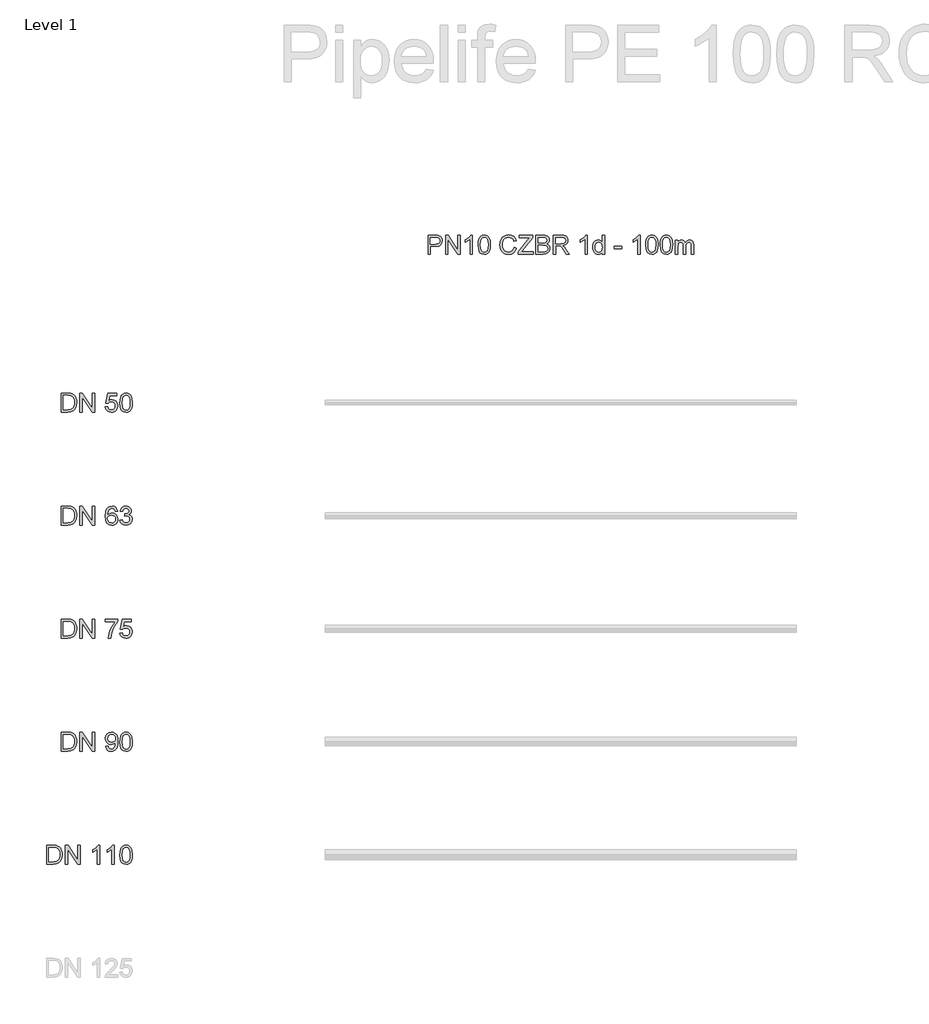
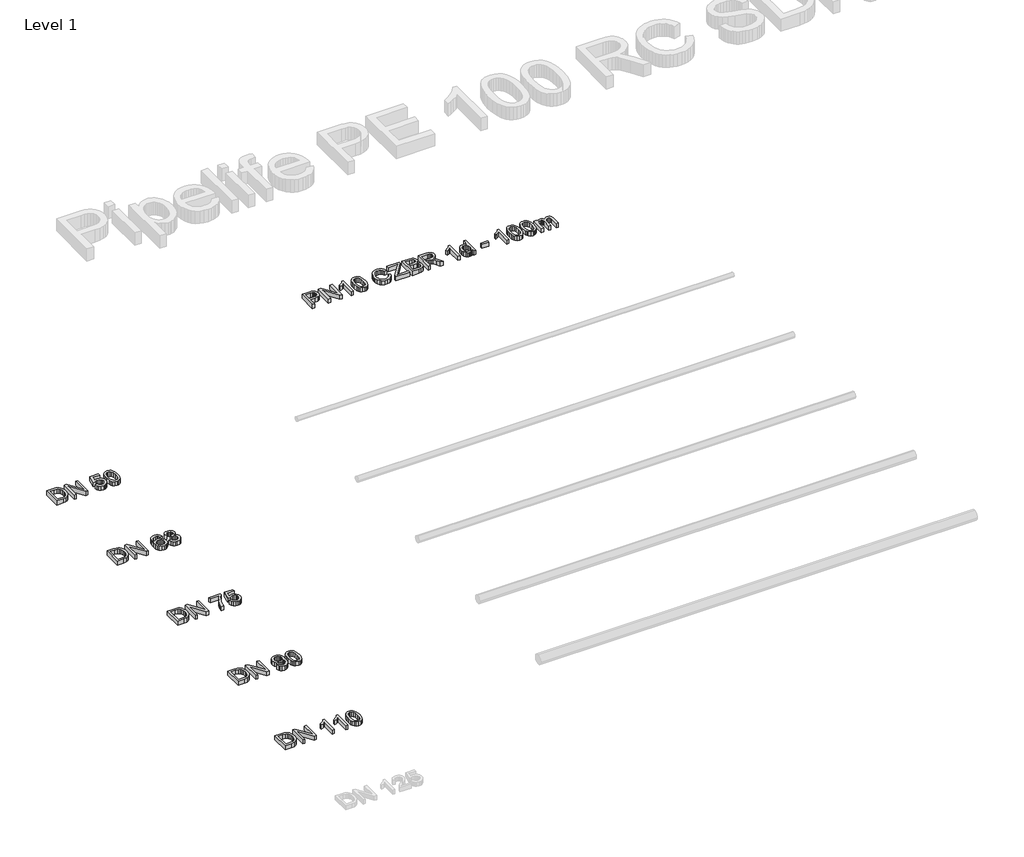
# One storey, part 3 of 13: 6 proxies.
"""IFC4 building model written with IfcOpenShell, lengths in millimetres."""

from ifc_helpers import new_model, si_unit, origin, origin_with_axes, place, context, project, spatial, polyline, outline, extrude, element, save

model = new_model("IFC4")

# Units and contexts
model_context = context("Model", 3, world=origin())
ifc_project = project(units=[si_unit("LENGTHUNIT", "METRE", prefix="MILLI")], contexts=[model_context])

# Site, building, storey
site = spatial("IfcSite", under=ifc_project)
building = spatial("IfcBuilding", under=site)
storey = spatial("IfcBuildingStorey", under=building, Name="Level 1", Elevation=0.0)

# Proxies
placement = place(None, origin())
element("IfcBuildingElementProxy", 1, Name="200mm Arial", ObjectType="200mm Arial", at=placement, inside=storey, context=model_context, shape_type="SweptSolid", body=[
    extrude(outline(polyline([(-19337.4878779, -22513.949573), (-19337.4878779, -22313.0369527), (-19268.17891, -22313.0369527), (-19232.3226782, -22315.9309577), (-19216.3075487, -22321.5105013), (-19202.7940167, -22330.302881), (-19188.90034, -22345.606772), (-19179.0043144, -22364.6385338), (-19173.0814143, -22387.0302846), (-19171.1071142, -22412.4141423), (-19176.4536659, -22452.9547382), (-19190.187927, -22482.2136195), (-19208.5329759, -22500.436041), (-19232.5434074, -22510.5160077), (-19264.8434466, -22513.949573), (-19337.4878779, -22513.949573)]), holes=[polyline([(-19312.3738004, -22488.8354954), (-19267.9336553, -22488.8354954), (-19235.6090907, -22485.2057264), (-19216.9697363, -22474.9540815), (-19208.2448016, -22464.0831685), (-19201.6903707, -22450.0116822), (-19197.5884865, -22432.6783089), (-19196.2211917, -22412.0217348), (-19198.9005989, -22384.6513144), (-19206.9388205, -22364.4423301), (-19218.8152776, -22350.5609162), (-19233.0093913, -22342.1732067), (-19268.6203684, -22338.1510302), (-19312.3738004, -22338.1510302), (-19312.3738004, -22488.8354954)])]), origin_with_axes(), (0.0, 0.0, 1.0), 50.0),
    extrude(outline(polyline([(-19136.5752576, -22513.949573), (-19136.5752576, -22313.0369527), (-19109.6953465, -22313.0369527), (-19004.7263505, -22472.2072292), (-19004.7263505, -22313.0369527), (-18979.612273, -22313.0369527), (-18979.612273, -22513.949573), (-19006.4921841, -22513.949573), (-19111.4611801, -22354.7302454), (-19111.4611801, -22513.949573), (-19136.5752576, -22513.949573)])), origin_with_axes(), (0.0, 0.0, 1.0), 50.0),
    extrude(outline(polyline([(-18866.5989241, -22460.5821582), (-18841.4848465, -22457.4428985), (-18836.8740589, -22472.5199289), (-18828.8297059, -22483.3172655), (-18817.3885758, -22489.8103827), (-18802.5874569, -22491.9747551), (-18784.5857646, -22488.9642541), (-18771.0967581, -22479.9327511), (-18762.6722604, -22465.9225785), (-18759.8640945, -22447.9760685), (-18762.4944508, -22431.0780222), (-18770.3855196, -22418.1531014), (-18783.5986146, -22409.9493329), (-18802.1950494, -22407.2147434), (-18824.2434437, -22411.5802764), (-18838.3455868, -22422.9110419), (-18863.4596644, -22419.7717822), (-18841.4848465, -22316.1762123), (-18744.1677961, -22316.1762123), (-18744.1677961, -22341.2902899), (-18821.1777604, -22341.2902899), (-18831.9199147, -22396.619742), (-18813.979536, -22385.7304349), (-18795.1807661, -22382.1006659), (-18771.7160261, -22386.601089), (-18752.2366745, -22400.1023582), (-18739.1216814, -22420.6792244), (-18734.750017, -22446.4064386), (-18738.6863543, -22471.5205162), (-18750.4953664, -22493.0048247), (-18760.9309523, -22503.5415782), (-18773.1078464, -22511.0678307), (-18787.0260485, -22515.5835821), (-18802.6855588, -22517.0888326), (-18827.3520466, -22513.2199403), (-18847.0030765, -22501.6132634), (-18860.4736888, -22483.6177025), (-18866.5989241, -22460.5821582)])), origin_with_axes(), (0.0, 0.0, 1.0), 50.0),
    extrude(outline(polyline([(-18712.7751992, -22415.1119436), (-18710.9296578, -22382.9529258), (-18705.3930338, -22357.3054194), (-18696.2205094, -22337.7770168), (-18683.4672669, -22323.9753106), (-18667.0413358, -22315.7715422), (-18646.8507456, -22313.0369527), (-18631.3751764, -22314.6556334), (-18617.5182879, -22319.5116758), (-18605.930005, -22327.4150073), (-18597.2602527, -22338.1755557), (-18585.4880288, -22367.9004209), (-18580.9262921, -22415.1119436), (-18582.7534393, -22447.0870203), (-18588.2348811, -22472.6732131), (-18597.3522232, -22492.2200098), (-18610.0870716, -22506.0768983), (-18626.5497909, -22514.335849), (-18646.8507456, -22517.0888326), (-18672.9458418, -22512.3063667), (-18692.7624186, -22497.9589689), (-18701.5180101, -22482.8298218), (-18707.772004, -22463.9789353), (-18712.7751992, -22415.1119436)]), holes=[polyline([(-18687.6611216, -22415.0628927), (-18684.7180657, -22454.5672876), (-18675.8888978, -22477.4311536), (-18662.7432478, -22488.3388547), (-18646.8507456, -22491.9747551), (-18630.9582434, -22488.326592), (-18617.8125935, -22477.3821026), (-18608.9834256, -22454.5059739), (-18606.0403696, -22415.0628927), (-18608.8853237, -22376.4475459), (-18617.420186, -22353.4058703), (-18630.5413105, -22341.9647402), (-18647.1450512, -22338.1510302), (-18662.8658751, -22341.5110191), (-18675.4964903, -22351.5909857), (-18684.6199638, -22376.0674012), (-18687.6611216, -22415.0628927)])]), origin_with_axes(), (0.0, 0.0, 1.0), 50.0),
])
element("IfcBuildingElementProxy", 2, Name="200mm Arial", ObjectType="200mm Arial", at=placement, inside=storey, context=model_context, shape_type="SweptSolid", body=[
    extrude(outline(polyline([(-19337.4878779, -23713.949573), (-19337.4878779, -23513.0369527), (-19268.17891, -23513.0369527), (-19232.3226782, -23515.9309577), (-19216.3075487, -23521.5105013), (-19202.7940167, -23530.302881), (-19188.90034, -23545.606772), (-19179.0043144, -23564.6385338), (-19173.0814143, -23587.0302846), (-19171.1071142, -23612.4141423), (-19176.4536659, -23652.9547382), (-19190.187927, -23682.2136195), (-19208.5329759, -23700.436041), (-19232.5434074, -23710.5160077), (-19264.8434466, -23713.949573), (-19337.4878779, -23713.949573)]), holes=[polyline([(-19312.3738004, -23688.8354954), (-19267.9336553, -23688.8354954), (-19235.6090907, -23685.2057264), (-19216.9697363, -23674.9540815), (-19208.2448016, -23664.0831685), (-19201.6903707, -23650.0116822), (-19197.5884865, -23632.6783089), (-19196.2211917, -23612.0217348), (-19198.9005989, -23584.6513144), (-19206.9388205, -23564.4423301), (-19218.8152776, -23550.5609162), (-19233.0093913, -23542.1732067), (-19268.6203684, -23538.1510302), (-19312.3738004, -23538.1510302), (-19312.3738004, -23688.8354954)])]), origin_with_axes(), (0.0, 0.0, 1.0), 50.0),
    extrude(outline(polyline([(-19136.5752576, -23713.949573), (-19136.5752576, -23513.0369527), (-19109.6953465, -23513.0369527), (-19004.7263505, -23672.2072292), (-19004.7263505, -23513.0369527), (-18979.612273, -23513.0369527), (-18979.612273, -23713.949573), (-19006.4921841, -23713.949573), (-19111.4611801, -23554.7302454), (-19111.4611801, -23713.949573), (-19136.5752576, -23713.949573)])), origin_with_axes(), (0.0, 0.0, 1.0), 50.0),
    extrude(outline(polyline([(-18737.8892767, -23566.4043674), (-18763.0033542, -23569.5436271), (-18772.5192352, -23548.5988789), (-18783.9113143, -23540.7629924), (-18797.6823636, -23538.1510302), (-18820.3438945, -23544.2333458), (-18829.7800677, -23553.8411973), (-18837.4871955, -23567.066555), (-18842.6927257, -23585.7733545), (-18844.6241062, -23611.8255311), (-18834.5502709, -23600.0717013), (-18822.4776101, -23591.7882251), (-18809.0805741, -23586.8770005), (-18795.0336133, -23585.2399256), (-18771.8325221, -23589.7158232), (-18752.3593018, -23603.143516), (-18739.1523382, -23623.6590686), (-18734.750017, -23649.3985455), (-18736.8224189, -23667.3818437), (-18743.0396246, -23684.0530295), (-18752.8865994, -23698.1919608), (-18765.8483083, -23708.5784958), (-18781.3361403, -23714.9612484), (-18798.7614842, -23717.0888326), (-18827.2539447, -23711.4479754), (-18849.9461324, -23694.5254036), (-18858.6051549, -23681.4165418), (-18864.7901709, -23664.6533856), (-18869.7381838, -23620.1641897), (-18864.2444793, -23570.144501), (-18857.3773487, -23551.0667539), (-18847.7633659, -23535.9437382), (-18837.3431084, -23525.9220195), (-18825.2612505, -23518.763649), (-18796.1127338, -23513.0369527), (-18774.0766023, -23516.5808825), (-18756.4305292, -23527.2126722), (-18744.0696942, -23544.0984558), (-18737.8892767, -23566.4043674)]), holes=[polyline([(-18844.6241062, -23649.0061381), (-18838.8115707, -23670.7602267), (-18823.3605269, -23686.554627), (-18800.7235215, -23691.9747551), (-18784.1504376, -23689.1665892), (-18771.1212836, -23680.7420915), (-18762.6783918, -23667.4983397), (-18759.8640945, -23650.2324114), (-18762.6416036, -23633.6593275), (-18770.9741308, -23621.022581), (-18784.224014, -23613.0211476), (-18801.7535911, -23610.3540031), (-18818.3021495, -23613.0211476), (-18832.1406439, -23621.022581), (-18841.5032406, -23633.3527592), (-18844.6241062, -23649.0061381)])]), origin_with_axes(), (0.0, 0.0, 1.0), 50.0),
    extrude(outline(polyline([(-18712.7751992, -23660.5821582), (-18687.6611216, -23657.4428985), (-18682.0386585, -23673.2250361), (-18673.8042331, -23683.8813512), (-18662.5531754, -23689.9514041), (-18647.8808152, -23691.9747551), (-18630.6639378, -23689.1911147), (-18617.3711351, -23680.8401934), (-18608.873061, -23668.3812565), (-18606.0403696, -23653.2735692), (-18608.8485355, -23638.9323028), (-18617.2730332, -23627.3011004), (-18630.0262757, -23619.5939726), (-18645.820676, -23617.02493), (-18663.4299609, -23619.7717822), (-18660.6340577, -23594.6577047), (-18656.6118812, -23594.9520102), (-18641.5655076, -23593.1493885), (-18628.1132893, -23587.7415231), (-18618.6219339, -23578.5935242), (-18615.4581487, -23565.5705016), (-18617.7512798, -23554.7241141), (-18624.6306731, -23545.925603), (-18635.1275727, -23540.0946734), (-18648.2732227, -23538.1510302), (-18661.4433981, -23540.1130675), (-18672.2100778, -23545.9991794), (-18680.0704898, -23555.809366), (-18684.5218619, -23569.5436271), (-18709.6359395, -23566.4043674), (-18702.2415114, -23543.8532011), (-18689.0835987, -23527.0164685), (-18671.0819064, -23516.5318316), (-18649.1561395, -23513.0369527), (-18633.3678705, -23514.7598667), (-18618.8671885, -23519.9286087), (-18606.6412435, -23528.0833263), (-18597.6771856, -23538.7641669), (-18592.1773498, -23551.0698196), (-18590.3440712, -23564.0989736), (-18592.0853793, -23576.2390794), (-18597.3093036, -23587.2510138), (-18605.9422678, -23596.6320047), (-18617.9106953, -23603.87928), (-18602.1898714, -23610.2313758), (-18590.5402749, -23621.0471064), (-18583.3297878, -23635.7378608), (-18580.9262921, -23653.7150276), (-18585.7332835, -23678.191443), (-18600.1542577, -23698.645682), (-18621.9206091, -23712.478045), (-18648.763732, -23717.0888326), (-18673.0439437, -23713.1524953), (-18692.8114695, -23701.3434833), (-18706.5579934, -23683.2804773), (-18712.7751992, -23660.5821582)])), origin_with_axes(), (0.0, 0.0, 1.0), 50.0),
])
element("IfcBuildingElementProxy", 3, Name="200mm Arial", ObjectType="200mm Arial", at=placement, inside=storey, context=model_context, shape_type="SweptSolid", body=[
    extrude(outline(polyline([(-19337.4878779, -24913.949573), (-19337.4878779, -24713.0369527), (-19268.17891, -24713.0369527), (-19232.3226782, -24715.9309577), (-19216.3075487, -24721.5105013), (-19202.7940167, -24730.302881), (-19188.90034, -24745.606772), (-19179.0043144, -24764.6385338), (-19173.0814143, -24787.0302846), (-19171.1071142, -24812.4141423), (-19176.4536659, -24852.9547382), (-19190.187927, -24882.2136195), (-19208.5329759, -24900.436041), (-19232.5434074, -24910.5160077), (-19264.8434466, -24913.949573), (-19337.4878779, -24913.949573)]), holes=[polyline([(-19312.3738004, -24888.8354954), (-19267.9336553, -24888.8354954), (-19235.6090907, -24885.2057264), (-19216.9697363, -24874.9540815), (-19208.2448016, -24864.0831685), (-19201.6903707, -24850.0116822), (-19197.5884865, -24832.6783089), (-19196.2211917, -24812.0217348), (-19198.9005989, -24784.6513144), (-19206.9388205, -24764.4423301), (-19218.8152776, -24750.5609162), (-19233.0093913, -24742.1732067), (-19268.6203684, -24738.1510302), (-19312.3738004, -24738.1510302), (-19312.3738004, -24888.8354954)])]), origin_with_axes(), (0.0, 0.0, 1.0), 50.0),
    extrude(outline(polyline([(-19136.5752576, -24913.949573), (-19136.5752576, -24713.0369527), (-19109.6953465, -24713.0369527), (-19004.7263505, -24872.2072292), (-19004.7263505, -24713.0369527), (-18979.612273, -24713.0369527), (-18979.612273, -24913.949573), (-19006.4921841, -24913.949573), (-19111.4611801, -24754.7302454), (-19111.4611801, -24913.949573), (-19136.5752576, -24913.949573)])), origin_with_axes(), (0.0, 0.0, 1.0), 50.0),
    extrude(outline(polyline([(-18866.5989241, -24741.2902899), (-18866.5989241, -24716.1762123), (-18734.750017, -24716.1762123), (-18734.750017, -24736.4832985), (-18753.5426556, -24760.2668695), (-18772.1513532, -24790.5129008), (-18788.5650215, -24824.4622776), (-18800.7725724, -24859.3558849), (-18810.0922496, -24913.949573), (-18835.2063271, -24913.949573), (-18832.4901318, -24888.0629432), (-18825.2244623, -24857.2957457), (-18813.6055227, -24824.6830068), (-18797.8295164, -24793.2597531), (-18779.4108912, -24764.8531317), (-18759.8640945, -24741.2902899), (-18866.5989241, -24741.2902899)])), origin_with_axes(), (0.0, 0.0, 1.0), 50.0),
    extrude(outline(polyline([(-18712.7751992, -24860.5821582), (-18687.6611216, -24857.4428985), (-18683.0503339, -24872.5199289), (-18675.005981, -24883.3172655), (-18663.5648509, -24889.8103827), (-18648.763732, -24891.9747551), (-18630.7620397, -24888.9642541), (-18617.2730332, -24879.9327511), (-18608.8485355, -24865.9225785), (-18606.0403696, -24847.9760685), (-18608.6707259, -24831.0780222), (-18616.5617947, -24818.1531014), (-18629.7748897, -24809.9493329), (-18648.3713245, -24807.2147434), (-18670.4197188, -24811.5802764), (-18684.5218619, -24822.9110419), (-18709.6359395, -24819.7717822), (-18687.6611216, -24716.1762123), (-18590.3440712, -24716.1762123), (-18590.3440712, -24741.2902899), (-18667.3540355, -24741.2902899), (-18678.0961897, -24796.619742), (-18660.1558111, -24785.7304349), (-18641.3570412, -24782.1006659), (-18617.8923012, -24786.601089), (-18598.4129496, -24800.1023582), (-18585.2979565, -24820.6792244), (-18580.9262921, -24846.4064386), (-18584.8626294, -24871.5205162), (-18596.6716415, -24893.0048247), (-18607.1072274, -24903.5415782), (-18619.2841214, -24911.0678307), (-18633.2023236, -24915.5835821), (-18648.8618339, -24917.0888326), (-18673.5283216, -24913.2199403), (-18693.1793515, -24901.6132634), (-18706.6499639, -24883.6177025), (-18712.7751992, -24860.5821582)])), origin_with_axes(), (0.0, 0.0, 1.0), 50.0),
])
element("IfcBuildingElementProxy", 4, Name="200mm Arial", ObjectType="200mm Arial", at=placement, inside=storey, context=model_context, shape_type="SweptSolid", body=[
    extrude(outline(polyline([(-19337.4878779, -26113.949573), (-19337.4878779, -25913.0369527), (-19268.17891, -25913.0369527), (-19232.3226782, -25915.9309577), (-19216.3075487, -25921.5105013), (-19202.7940167, -25930.302881), (-19188.90034, -25945.606772), (-19179.0043144, -25964.6385338), (-19173.0814143, -25987.0302846), (-19171.1071142, -26012.4141423), (-19176.4536659, -26052.9547382), (-19190.187927, -26082.2136195), (-19208.5329759, -26100.436041), (-19232.5434074, -26110.5160077), (-19264.8434466, -26113.949573), (-19337.4878779, -26113.949573)]), holes=[polyline([(-19312.3738004, -26088.8354954), (-19267.9336553, -26088.8354954), (-19235.6090907, -26085.2057264), (-19216.9697363, -26074.9540815), (-19208.2448016, -26064.0831685), (-19201.6903707, -26050.0116822), (-19197.5884865, -26032.6783089), (-19196.2211917, -26012.0217348), (-19198.9005989, -25984.6513144), (-19206.9388205, -25964.4423301), (-19218.8152776, -25950.5609162), (-19233.0093913, -25942.1732067), (-19268.6203684, -25938.1510302), (-19312.3738004, -25938.1510302), (-19312.3738004, -26088.8354954)])]), origin_with_axes(), (0.0, 0.0, 1.0), 50.0),
    extrude(outline(polyline([(-19136.5752576, -26113.949573), (-19136.5752576, -25913.0369527), (-19109.6953465, -25913.0369527), (-19004.7263505, -26072.2072292), (-19004.7263505, -25913.0369527), (-18979.612273, -25913.0369527), (-18979.612273, -26113.949573), (-19006.4921841, -26113.949573), (-19111.4611801, -25954.7302454), (-19111.4611801, -26113.949573), (-19136.5752576, -26113.949573)])), origin_with_axes(), (0.0, 0.0, 1.0), 50.0),
    extrude(outline(polyline([(-18863.4596644, -26063.7214179), (-18838.3455868, -26060.5821582), (-18834.0536302, -26074.8375855), (-18827.0638723, -26084.5435388), (-18817.5479914, -26090.116951), (-18805.6776657, -26091.9747551), (-18785.3460541, -26087.1922892), (-18771.562742, -26074.4145212), (-18763.3467108, -26052.5868562), (-18759.7169417, -26023.4506021), (-18759.8640945, -26018.5455089), (-18768.5645037, -26029.1650358), (-18779.9504515, -26037.5772708), (-18793.2003347, -26043.0587125), (-18807.4925502, -26044.8858597), (-18830.3932044, -26040.4222249), (-18849.4556231, -26027.0313202), (-18862.3130988, -26006.3440894), (-18866.5989241, -25979.9914758), (-18862.1046324, -25952.7682081), (-18848.6217572, -25931.4310524), (-18828.3698534, -25917.6354776), (-18803.5684756, -25913.0369527), (-18784.8371506, -25915.6611776), (-18767.7858202, -25923.5338523), (-18753.5242615, -25936.2625693), (-18743.162252, -25953.4549212), (-18736.8530757, -25977.2200981), (-18734.750017, -26009.6672901), (-18736.8469444, -26044.070388), (-18743.1377265, -26070.6621249), (-18753.5671811, -26090.6442486), (-18768.0801258, -26105.2185069), (-18786.0511612, -26114.1212512), (-18806.8548881, -26117.0888326), (-18828.3269338, -26113.5878223), (-18845.4579721, -26103.0847914), (-18857.4386624, -26086.2419274), (-18863.4596644, -26063.7214179)]), holes=[polyline([(-18759.8640945, -25979.4028646), (-18762.5741586, -25962.3821909), (-18770.7043507, -25949.2855919), (-18783.3227031, -25940.9346706), (-18799.4972481, -25938.1510302), (-18816.2726671, -25941.1492685), (-18829.7126227, -25950.1439832), (-18838.5417906, -25963.9089012), (-18841.4848465, -25981.2177491), (-18838.7012061, -25996.7362379), (-18830.3502848, -26009.0541534), (-18817.241423, -26017.092375), (-18800.1839612, -26019.7717822), (-18784.1381749, -26017.092375), (-18771.2193855, -26009.0541534), (-18762.7029173, -25996.2825168), (-18759.8640945, -25979.4028646)])]), origin_with_axes(), (0.0, 0.0, 1.0), 50.0),
    extrude(outline(polyline([(-18712.7751992, -26015.1119436), (-18710.9296578, -25982.9529258), (-18705.3930338, -25957.3054194), (-18696.2205094, -25937.7770168), (-18683.4672669, -25923.9753106), (-18667.0413358, -25915.7715422), (-18646.8507456, -25913.0369527), (-18631.3751764, -25914.6556334), (-18617.5182879, -25919.5116758), (-18605.930005, -25927.4150073), (-18597.2602527, -25938.1755557), (-18585.4880288, -25967.9004209), (-18580.9262921, -26015.1119436), (-18582.7534393, -26047.0870203), (-18588.2348811, -26072.6732131), (-18597.3522232, -26092.2200098), (-18610.0870716, -26106.0768983), (-18626.5497909, -26114.335849), (-18646.8507456, -26117.0888326), (-18672.9458418, -26112.3063667), (-18692.7624186, -26097.9589689), (-18701.5180101, -26082.8298218), (-18707.772004, -26063.9789353), (-18712.7751992, -26015.1119436)]), holes=[polyline([(-18687.6611216, -26015.0628927), (-18684.7180657, -26054.5672876), (-18675.8888978, -26077.4311536), (-18662.7432478, -26088.3388547), (-18646.8507456, -26091.9747551), (-18630.9582434, -26088.326592), (-18617.8125935, -26077.3821026), (-18608.9834256, -26054.5059739), (-18606.0403696, -26015.0628927), (-18608.8853237, -25976.4475459), (-18617.420186, -25953.4058703), (-18630.5413105, -25941.9647402), (-18647.1450512, -25938.1510302), (-18662.8658751, -25941.5110191), (-18675.4964903, -25951.5909857), (-18684.6199638, -25976.0674012), (-18687.6611216, -26015.0628927)])]), origin_with_axes(), (0.0, 0.0, 1.0), 50.0),
])
element("IfcBuildingElementProxy", 5, Name="200mm Arial", ObjectType="200mm Arial", at=placement, inside=storey, context=model_context, shape_type="SweptSolid", body=[
    extrude(outline(polyline([(-19491.3116028, -27313.949573), (-19491.3116028, -27113.0369527), (-19422.0026349, -27113.0369527), (-19386.1464031, -27115.9309577), (-19370.1312736, -27121.5105013), (-19356.6177416, -27130.302881), (-19342.724065, -27145.606772), (-19332.8280393, -27164.6385338), (-19326.9051392, -27187.0302846), (-19324.9308391, -27212.4141423), (-19330.2773908, -27252.9547382), (-19344.0116519, -27282.2136195), (-19362.3567008, -27300.436041), (-19386.3671323, -27310.5160077), (-19418.6671715, -27313.949573), (-19491.3116028, -27313.949573)]), holes=[polyline([(-19466.1975253, -27288.8354954), (-19421.7573803, -27288.8354954), (-19389.4328156, -27285.2057264), (-19370.7934612, -27274.9540815), (-19362.0685265, -27264.0831685), (-19355.5140957, -27250.0116822), (-19351.4122114, -27232.6783089), (-19350.0449167, -27212.0217348), (-19352.7243239, -27184.6513144), (-19360.7625455, -27164.4423301), (-19372.6390025, -27150.5609162), (-19386.8331162, -27142.1732067), (-19422.4440933, -27138.1510302), (-19466.1975253, -27138.1510302), (-19466.1975253, -27288.8354954)])]), origin_with_axes(), (0.0, 0.0, 1.0), 50.0),
    extrude(outline(polyline([(-19290.3989825, -27313.949573), (-19290.3989825, -27113.0369527), (-19263.5190714, -27113.0369527), (-19158.5500754, -27272.2072292), (-19158.5500754, -27113.0369527), (-19133.4359979, -27113.0369527), (-19133.4359979, -27313.949573), (-19160.315909, -27313.949573), (-19265.284905, -27154.7302454), (-19265.284905, -27313.949573), (-19290.3989825, -27313.949573)])), origin_with_axes(), (0.0, 0.0, 1.0), 50.0),
    extrude(outline(polyline([(-18926.2448582, -27313.949573), (-18951.3589358, -27313.949573), (-18951.3589358, -27157.3789958), (-18975.1486381, -27174.3260931), (-19001.5870908, -27187.0057592), (-19001.5870908, -27163.2651077), (-18964.7743658, -27139.769711), (-18951.3037535, -27126.1948653), (-18942.431666, -27113.0369527), (-18926.2448582, -27113.0369527), (-18926.2448582, -27313.949573)])), origin_with_axes(), (0.0, 0.0, 1.0), 50.0),
    extrude(outline(polyline([(-18772.4211333, -27313.949573), (-18797.5352108, -27313.949573), (-18797.5352108, -27157.3789958), (-18821.3249132, -27174.3260931), (-18847.7633659, -27187.0057592), (-18847.7633659, -27163.2651077), (-18810.9506409, -27139.769711), (-18797.4800285, -27126.1948653), (-18788.6079411, -27113.0369527), (-18772.4211333, -27113.0369527), (-18772.4211333, -27313.949573)])), origin_with_axes(), (0.0, 0.0, 1.0), 50.0),
    extrude(outline(polyline([(-18712.7751992, -27215.1119436), (-18710.9296578, -27182.9529258), (-18705.3930338, -27157.3054194), (-18696.2205094, -27137.7770168), (-18683.4672669, -27123.9753106), (-18667.0413358, -27115.7715422), (-18646.8507456, -27113.0369527), (-18631.3751764, -27114.6556334), (-18617.5182879, -27119.5116758), (-18605.930005, -27127.4150073), (-18597.2602527, -27138.1755557), (-18585.4880288, -27167.9004209), (-18580.9262921, -27215.1119436), (-18582.7534393, -27247.0870203), (-18588.2348811, -27272.6732131), (-18597.3522232, -27292.2200098), (-18610.0870716, -27306.0768983), (-18626.5497909, -27314.335849), (-18646.8507456, -27317.0888326), (-18672.9458418, -27312.3063667), (-18692.7624186, -27297.9589689), (-18701.5180101, -27282.8298218), (-18707.772004, -27263.9789353), (-18712.7751992, -27215.1119436)]), holes=[polyline([(-18687.6611216, -27215.0628927), (-18684.7180657, -27254.5672876), (-18675.8888978, -27277.4311536), (-18662.7432478, -27288.3388547), (-18646.8507456, -27291.9747551), (-18630.9582434, -27288.326592), (-18617.8125935, -27277.3821026), (-18608.9834256, -27254.5059739), (-18606.0403696, -27215.0628927), (-18608.8853237, -27176.4475459), (-18617.420186, -27153.4058703), (-18630.5413105, -27141.9647402), (-18647.1450512, -27138.1510302), (-18662.8658751, -27141.5110191), (-18675.4964903, -27151.5909857), (-18684.6199638, -27176.0674012), (-18687.6611216, -27215.0628927)])]), origin_with_axes(), (0.0, 0.0, 1.0), 50.0),
])
element("IfcBuildingElementProxy", 6, Name="200mm Arial", ObjectType="200mm Arial", at=placement, inside=storey, context=model_context, shape_type="SweptSolid", body=[
    extrude(outline(polyline([(-15440.6250972, -20838.0508707), (-15440.6250972, -20637.1382504), (-15366.1657813, -20637.1382504), (-15336.1466105, -20639.0512367), (-15311.7437715, -20648.4444903), (-15302.8716841, -20656.7708862), (-15295.9248457, -20667.8686597), (-15291.4366854, -20680.9591274), (-15289.9406319, -20695.2636056), (-15293.9812025, -20718.9429434), (-15306.1029143, -20738.673681), (-15315.8104004, -20746.4421225), (-15328.7705765, -20751.9910093), (-15364.4489987, -20756.4301187), (-15415.5110196, -20756.4301187), (-15415.5110196, -20838.0508707), (-15440.6250972, -20838.0508707)]), holes=[polyline([(-15415.5110196, -20731.3160411), (-15362.9774707, -20731.3160411), (-15340.7083473, -20729.0106473), (-15325.9930675, -20722.0944658), (-15317.789299, -20710.9966923), (-15315.0547095, -20696.1465224), (-15316.6672589, -20684.8648079), (-15321.5049071, -20675.3489269), (-15328.9667803, -20668.1874908), (-15338.4520044, -20663.9691105), (-15363.5660819, -20662.2523279), (-15415.5110196, -20662.2523279), (-15415.5110196, -20731.3160411)])]), origin_with_axes(), (0.0, 0.0, 1.0), 50.0),
    extrude(outline(polyline([(-15255.4087753, -20838.0508707), (-15255.4087753, -20637.1382504), (-15228.5288642, -20637.1382504), (-15123.5598682, -20796.3085269), (-15123.5598682, -20637.1382504), (-15098.4457907, -20637.1382504), (-15098.4457907, -20838.0508707), (-15125.3257018, -20838.0508707), (-15230.2946978, -20678.8315431), (-15230.2946978, -20838.0508707), (-15255.4087753, -20838.0508707)])), origin_with_axes(), (0.0, 0.0, 1.0), 50.0),
    extrude(outline(polyline([(-14969.7361433, -20838.0508707), (-14994.8502209, -20838.0508707), (-14994.8502209, -20681.4802935), (-15018.6399232, -20698.4273908), (-15045.0783759, -20711.1070569), (-15045.0783759, -20687.3664054), (-15008.265651, -20663.8710087), (-14994.7950386, -20650.2961631), (-14985.9229511, -20637.1382504), (-14969.7361433, -20637.1382504), (-14969.7361433, -20838.0508707)])), origin_with_axes(), (0.0, 0.0, 1.0), 50.0),
    extrude(outline(polyline([(-14910.0902092, -20739.2132413), (-14908.2446678, -20707.0542235), (-14902.7080438, -20681.4067171), (-14893.5355194, -20661.8783145), (-14880.7822769, -20648.0766083), (-14864.3563458, -20639.8728399), (-14844.1657556, -20637.1382504), (-14828.6901864, -20638.7569311), (-14814.8332979, -20643.6129735), (-14803.245015, -20651.516305), (-14794.5752627, -20662.2768534), (-14782.8030388, -20692.0017186), (-14778.2413021, -20739.2132413), (-14780.0684494, -20771.188318), (-14785.5498911, -20796.7745108), (-14794.6672332, -20816.3213075), (-14807.4020816, -20830.178196), (-14823.8648009, -20838.4371468), (-14844.1657556, -20841.1901304), (-14870.2608518, -20836.4076644), (-14890.0774286, -20822.0602666), (-14898.8330201, -20806.9311195), (-14905.087014, -20788.080233), (-14910.0902092, -20739.2132413)]), holes=[polyline([(-14884.9761316, -20739.1641904), (-14882.0330757, -20778.6685853), (-14873.2039078, -20801.5324513), (-14860.0582578, -20812.4401524), (-14844.1657556, -20816.0760528), (-14828.2732535, -20812.4278897), (-14815.1276035, -20801.4834003), (-14806.2984356, -20778.6072716), (-14803.3553796, -20739.1641904), (-14806.2003337, -20700.5488436), (-14814.735196, -20677.507168), (-14827.8563205, -20666.0660379), (-14844.4600612, -20662.2523279), (-14860.1808852, -20665.6123168), (-14872.8115003, -20675.6922835), (-14881.9349738, -20700.1686989), (-14884.9761316, -20739.1641904)])]), origin_with_axes(), (0.0, 0.0, 1.0), 50.0),
    extrude(outline(polyline([(-14527.1005267, -20766.6327127), (-14501.9864492, -20773.1074358), (-14513.574732, -20802.3724485), (-14531.7603653, -20823.7525238), (-14555.6481696, -20836.8307287), (-14584.3429652, -20841.1901304), (-14613.4730878, -20837.8914551), (-14636.606734, -20827.9954295), (-14654.3386461, -20811.8454099), (-14667.2635669, -20789.7847529), (-14675.1546357, -20763.8490722), (-14677.784992, -20736.0739816), (-14674.8112792, -20706.778312), (-14665.8901408, -20681.4802935), (-14651.4875607, -20660.983135), (-14632.0695227, -20646.0900456), (-14609.0401098, -20637.0217544), (-14583.8034049, -20633.9989907), (-14556.2674376, -20637.9108025), (-14533.5016734, -20649.6462382), (-14516.217351, -20668.4817963), (-14505.1257089, -20693.6939758), (-14530.2397864, -20699.6781895), (-14538.946327, -20681.3637975), (-14550.8411782, -20668.8006274), (-14566.0714928, -20661.534958), (-14584.7844236, -20659.1130682), (-14606.3545712, -20661.7986068), (-14624.0742207, -20669.8552225), (-14637.5203076, -20682.4367867), (-14646.2697677, -20698.6971709), (-14651.0706277, -20717.0790079), (-14652.6709144, -20736.0249307), (-14650.7763221, -20759.2260218), (-14645.0925453, -20779.2878533), (-14635.4049861, -20795.4440043), (-14621.4990467, -20806.9280539), (-14604.8278609, -20813.7890531), (-14586.8445628, -20816.0760528), (-14565.8814204, -20812.9613186), (-14548.413157, -20803.6171159), (-14535.2245875, -20788.1415466), (-14527.1005267, -20766.6327127)])), origin_with_axes(), (0.0, 0.0, 1.0), 50.0),
    extrude(outline(polyline([(-14483.150891, -20838.0508707), (-14483.150891, -20812.0048254), (-14380.3891871, -20686.189183), (-14360.8669158, -20662.2523279), (-14470.5938523, -20662.2523279), (-14470.5938523, -20637.1382504), (-14329.3271661, -20637.1382504), (-14329.3271661, -20662.2523279), (-14441.8009548, -20799.938296), (-14452.3959562, -20812.9367931), (-14326.1879064, -20812.9367931), (-14326.1879064, -20838.0508707), (-14483.150891, -20838.0508707)])), origin_with_axes(), (0.0, 0.0, 1.0), 50.0),
    extrude(outline(polyline([(-14297.9345692, -20838.0508707), (-14297.9345692, -20637.1382504), (-14221.2679614, -20637.1382504), (-14200.1821917, -20638.6159097), (-14183.7194724, -20643.0488877), (-14171.10112, -20650.5475491), (-14161.5484509, -20661.2222583), (-14155.5335802, -20673.7792971), (-14153.5286234, -20686.924947), (-14155.2147492, -20699.0221333), (-14160.2731266, -20710.3958183), (-14168.7405439, -20720.3470263), (-14180.6537891, -20728.1767814), (-14166.4228873, -20735.6079977), (-14155.9075936, -20746.9142377), (-14149.4144764, -20761.3474747), (-14147.250104, -20778.1596818), (-14153.1607414, -20805.1622203), (-14167.8024448, -20824.3901859), (-14189.6546353, -20834.5927799), (-14221.8565726, -20838.0508707), (-14297.9345692, -20838.0508707)]), holes=[polyline([(-14272.8204917, -20718.7590024), (-14226.9578696, -20718.7590024), (-14200.1760604, -20716.6007613), (-14184.062829, -20707.3056096), (-14178.6427009, -20690.9471235), (-14183.694947, -20674.564112), (-14198.1649721, -20664.8765528), (-14230.4404858, -20662.2523279), (-14272.8204917, -20662.2523279), (-14272.8204917, -20718.7590024)]), polyline([(-14272.8204917, -20812.9367931), (-14221.3170123, -20812.9367931), (-14202.6776579, -20811.9557745), (-14186.9077831, -20806.4865955), (-14176.4599344, -20795.3275083), (-14172.3641815, -20778.4049365), (-14177.1711729, -20758.8826653), (-14183.4680864, -20751.8254624), (-14192.7448441, -20747.2330688), (-14223.769559, -20743.8730799), (-14272.8204917, -20743.8730799), (-14272.8204917, -20812.9367931)])]), origin_with_axes(), (0.0, 0.0, 1.0), 50.0),
    extrude(outline(polyline([(-14112.7182474, -20838.0508707), (-14112.7182474, -20637.1382504), (-14026.1433512, -20637.1382504), (-14002.874815, -20638.4932824), (-13985.9461118, -20642.5583784), (-13973.5730141, -20650.0631711), (-13963.971294, -20661.7372931), (-13957.8092706, -20676.2134496), (-13955.7552628, -20692.1243459), (-13959.1581712, -20711.9163972), (-13969.3668966, -20728.3239342), (-13986.6880072, -20740.3536755), (-14011.4280714, -20747.0123396), (-13997.1542499, -20757.7544938), (-13976.7981129, -20783.6043354), (-13943.2963259, -20838.0508707), (-13972.4816308, -20838.0508707), (-13998.6257779, -20796.4066288), (-14017.510387, -20768.8400046), (-14030.7786643, -20755.816982), (-14042.7225664, -20751.0345161), (-14057.2906934, -20750.1515993), (-14087.6041698, -20750.1515993), (-14087.6041698, -20838.0508707), (-14112.7182474, -20838.0508707)]), holes=[polyline([(-14087.6041698, -20725.0375217), (-14031.391801, -20725.0375217), (-14002.7215308, -20721.4813291), (-13993.291489, -20716.8582787), (-13986.4366212, -20710.1015127), (-13980.8693403, -20693.0563136), (-13983.524222, -20680.8058432), (-13991.4888672, -20670.934343), (-14005.1924715, -20664.4228317), (-14025.0642306, -20662.2523279), (-14087.6041698, -20662.2523279), (-14087.6041698, -20725.0375217)])]), origin_with_axes(), (0.0, 0.0, 1.0), 50.0),
    extrude(outline(polyline([(-13748.5641231, -20838.0508707), (-13773.6782006, -20838.0508707), (-13773.6782006, -20681.4802935), (-13797.467903, -20698.4273908), (-13823.9063557, -20711.1070569), (-13823.9063557, -20687.3664054), (-13787.0936307, -20663.8710087), (-13773.6230183, -20650.2961631), (-13764.7509309, -20637.1382504), (-13748.5641231, -20637.1382504), (-13748.5641231, -20838.0508707)])), origin_with_axes(), (0.0, 0.0, 1.0), 50.0),
    extrude(outline(polyline([(-13591.6011385, -20838.0508707), (-13591.6011385, -20814.3592702), (-13599.1151282, -20826.0977715), (-13608.2171419, -20834.4824153), (-13618.9071796, -20839.5132016), (-13631.1852411, -20841.1901304), (-13647.4210999, -20838.7621092), (-13662.2835325, -20831.4780457), (-13674.8650967, -20819.8468433), (-13684.2583503, -20804.3774054), (-13690.107674, -20785.6951314), (-13692.0574486, -20764.4254207), (-13690.2609582, -20743.4193588), (-13684.871487, -20724.4489105), (-13675.8951663, -20708.5931966), (-13663.3381275, -20696.9313373), (-13648.1507325, -20689.7576384), (-13631.283343, -20687.3664054), (-13618.9960844, -20689.0770567), (-13608.1313028, -20694.2090105), (-13591.6011385, -20711.9899736), (-13591.6011385, -20637.1382504), (-13566.4870609, -20637.1382504), (-13566.4870609, -20838.0508707), (-13591.6011385, -20838.0508707)]), holes=[polyline([(-13666.9433711, -20764.3273188), (-13664.1106797, -20787.044032), (-13655.6126056, -20803.200183), (-13643.2640333, -20812.8570854), (-13628.8798473, -20816.0760528), (-13614.5017927, -20813.0042382), (-13602.4659201, -20803.7887942), (-13594.3173339, -20788.2580426), (-13591.6011385, -20766.2403052), (-13594.3663848, -20742.16856), (-13602.6621238, -20725.4789801), (-13615.0045647, -20715.7301073), (-13629.9099169, -20712.480483), (-13644.4412557, -20715.6013486), (-13656.3483696, -20724.9639453), (-13664.2946207, -20741.0465199), (-13666.9433711, -20764.3273188)])]), origin_with_axes(), (0.0, 0.0, 1.0), 50.0),
    extrude(outline(polyline([(-13462.8914911, -20778.4049365), (-13462.8914911, -20753.290859), (-13384.4099988, -20753.290859), (-13384.4099988, -20778.4049365), (-13462.8914911, -20778.4049365)])), origin_with_axes(), (0.0, 0.0, 1.0), 50.0),
    extrude(outline(polyline([(-13189.7758979, -20838.0508707), (-13214.8899754, -20838.0508707), (-13214.8899754, -20681.4802935), (-13238.6796778, -20698.4273908), (-13265.1181305, -20711.1070569), (-13265.1181305, -20687.3664054), (-13228.3054055, -20663.8710087), (-13214.8347931, -20650.2961631), (-13205.9627057, -20637.1382504), (-13189.7758979, -20637.1382504), (-13189.7758979, -20838.0508707)])), origin_with_axes(), (0.0, 0.0, 1.0), 50.0),
    extrude(outline(polyline([(-13130.1299637, -20739.2132413), (-13128.2844224, -20707.0542235), (-13122.7477983, -20681.4067171), (-13113.5752739, -20661.8783145), (-13100.8220314, -20648.0766083), (-13084.3961003, -20639.8728399), (-13064.2055102, -20637.1382504), (-13048.7299409, -20638.7569311), (-13034.8730524, -20643.6129735), (-13023.2847696, -20651.516305), (-13014.6150172, -20662.2768534), (-13002.8427934, -20692.0017186), (-12998.2810566, -20739.2132413), (-13000.1082039, -20771.188318), (-13005.5896456, -20796.7745108), (-13014.7069877, -20816.3213075), (-13027.4418361, -20830.178196), (-13043.9045554, -20838.4371468), (-13064.2055102, -20841.1901304), (-13090.3006064, -20836.4076644), (-13110.1171832, -20822.0602666), (-13118.8727747, -20806.9311195), (-13125.1267686, -20788.080233), (-13130.1299637, -20739.2132413)]), holes=[polyline([(-13105.0158862, -20739.1641904), (-13102.0728302, -20778.6685853), (-13093.2436623, -20801.5324513), (-13080.0980124, -20812.4401524), (-13064.2055102, -20816.0760528), (-13048.313008, -20812.4278897), (-13035.167358, -20801.4834003), (-13026.3381901, -20778.6072716), (-13023.3951342, -20739.1641904), (-13026.2400883, -20700.5488436), (-13034.7749506, -20677.507168), (-13047.8960751, -20666.0660379), (-13064.4998158, -20662.2523279), (-13080.2206397, -20665.6123168), (-13092.8512549, -20675.6922835), (-13101.9747284, -20700.1686989), (-13105.0158862, -20739.1641904)])]), origin_with_axes(), (0.0, 0.0, 1.0), 50.0),
    extrude(outline(polyline([(-12976.3062388, -20739.2132413), (-12974.4606975, -20707.0542235), (-12968.9240734, -20681.4067171), (-12959.751549, -20661.8783145), (-12946.9983065, -20648.0766083), (-12930.5723754, -20639.8728399), (-12910.3817853, -20637.1382504), (-12894.906216, -20638.7569311), (-12881.0493275, -20643.6129735), (-12869.4610447, -20651.516305), (-12860.7912923, -20662.2768534), (-12849.0190685, -20692.0017186), (-12844.4573317, -20739.2132413), (-12846.284479, -20771.188318), (-12851.7659207, -20796.7745108), (-12860.8832628, -20816.3213075), (-12873.6181112, -20830.178196), (-12890.0808305, -20838.4371468), (-12910.3817853, -20841.1901304), (-12936.4768815, -20836.4076644), (-12956.2934583, -20822.0602666), (-12965.0490497, -20806.9311195), (-12971.3030437, -20788.080233), (-12976.3062388, -20739.2132413)]), holes=[polyline([(-12951.1921613, -20739.1641904), (-12948.2491053, -20778.6685853), (-12939.4199374, -20801.5324513), (-12926.2742875, -20812.4401524), (-12910.3817853, -20816.0760528), (-12894.4892831, -20812.4278897), (-12881.3436331, -20801.4834003), (-12872.5144652, -20778.6072716), (-12869.5714093, -20739.1641904), (-12872.4163634, -20700.5488436), (-12880.9512256, -20677.507168), (-12894.0723501, -20666.0660379), (-12910.6760909, -20662.2523279), (-12926.3969148, -20665.6123168), (-12939.02753, -20675.6922835), (-12948.1510034, -20700.1686989), (-12951.1921613, -20739.1641904)])]), origin_with_axes(), (0.0, 0.0, 1.0), 50.0),
    extrude(outline(polyline([(-12816.2039945, -20838.0508707), (-12816.2039945, -20690.5056651), (-12791.089917, -20690.5056651), (-12791.089917, -20714.7858768), (-12783.5360733, -20703.632921), (-12773.8239887, -20694.8957236), (-12762.2847567, -20689.248735), (-12749.2494714, -20687.3664054), (-12735.2822183, -20689.2855232), (-12724.0863429, -20695.0428764), (-12715.7231589, -20704.2583204), (-12710.2539799, -20716.5517104), (-12701.0998496, -20703.7831395), (-12690.6581323, -20694.6627317), (-12678.928828, -20689.190487), (-12665.9119367, -20687.3664054), (-12647.033459, -20690.4014319), (-12633.0723373, -20699.5065113), (-12624.4455045, -20714.9268982), (-12621.5698936, -20736.9078475), (-12621.5698936, -20838.0508707), (-12646.6839711, -20838.0508707), (-12646.6839711, -20747.6990526), (-12649.0138904, -20726.7297789), (-12657.4506508, -20716.4045576), (-12671.7980487, -20712.480483), (-12685.4035511, -20714.9943433), (-12696.4951933, -20722.5359242), (-12703.8712273, -20735.6202605), (-12706.3299053, -20754.762387), (-12706.3299053, -20838.0508707), (-12731.4439828, -20838.0508707), (-12731.4439828, -20744.9031495), (-12732.8971167, -20730.7029045), (-12737.2565183, -20720.5738869), (-12744.9268579, -20714.5038339), (-12756.3128057, -20712.480483), (-12774.9031092, -20717.8760856), (-12782.2607491, -20724.5224869), (-12787.2639442, -20733.6704859), (-12791.089917, -20763.6406058), (-12791.089917, -20838.0508707), (-12816.2039945, -20838.0508707)])), origin_with_axes(), (0.0, 0.0, 1.0), 50.0),
])

save(model, "model.ifc")
